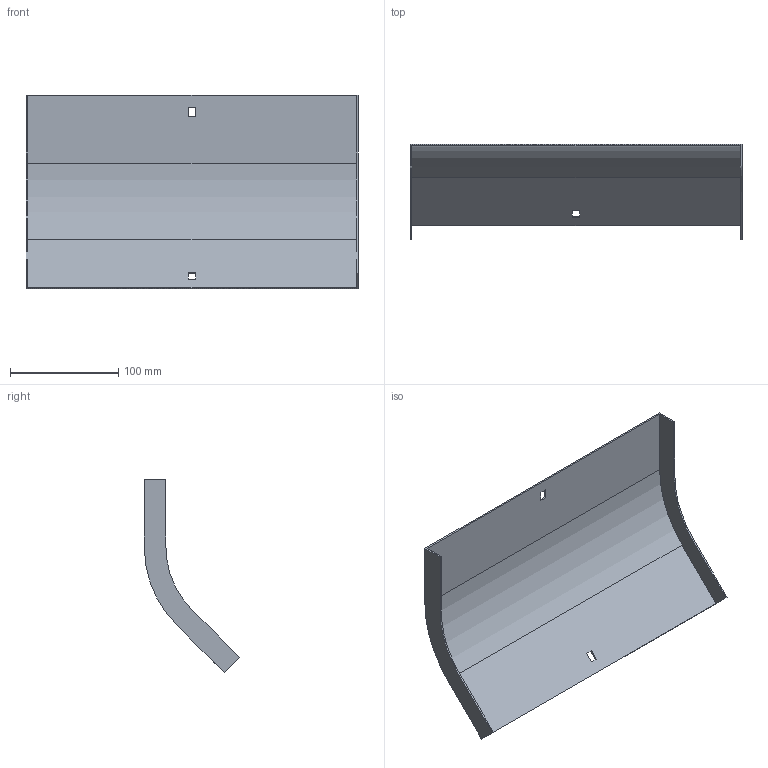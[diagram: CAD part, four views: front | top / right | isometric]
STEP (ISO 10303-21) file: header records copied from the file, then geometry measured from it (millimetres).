
FILE_DESCRIPTION (( 'STEP AP214' ), '1' );
FILE_NAME ('34G1C300.step', '2025-02-21T12:43:26', ( '' ), ( '' ), 'SwSTEP 2.0', 'SolidWorks 2023', '' );
FILE_SCHEMA (( 'AUTOMOTIVE_DESIGN' ));
Length unit declared in the file: millimetre
Products named in the file (1): 34G1C300
Bounding box: 307 x 88.23 x 178.86 mm (x, y, z)
Volume: 104956.5 mm3; surface area: 141637.1 mm2
Topology: 1 solids, 1 shells, 26 faces, 72 edges, 48 vertices
Faces by surface type: plane 22, cylinder 4
Entity records: 855 total; most frequent: CARTESIAN_POINT 147, ORIENTED_EDGE 144, DIRECTION 134, EDGE_CURVE 72, VECTOR 64, LINE 64, VERTEX_POINT 48, AXIS2_PLACEMENT_3D 35
